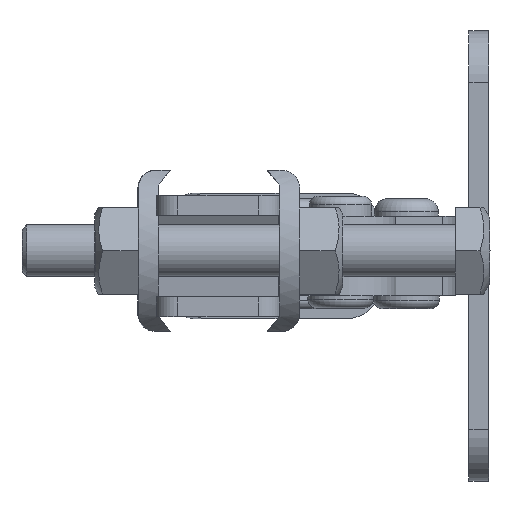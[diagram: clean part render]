
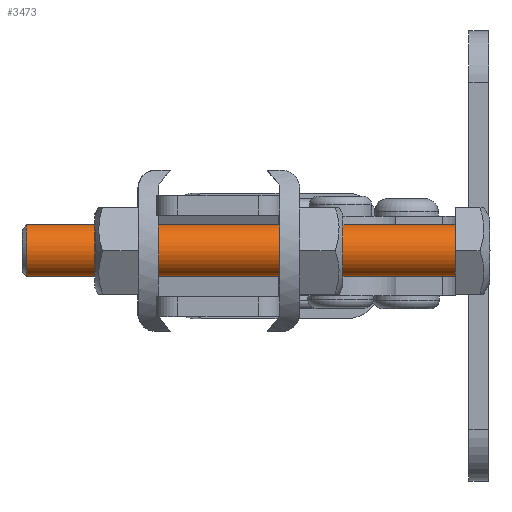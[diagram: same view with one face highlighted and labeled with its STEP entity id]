
A CAD part, left-side view. The second image highlights one B-rep face of the part: STEP entity #3473.
In plain terms, the highlighted cylindrical face has radius 3 mm (diameter 6 mm), a full revolution.
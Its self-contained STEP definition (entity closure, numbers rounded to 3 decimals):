
#495=FACE_OUTER_BOUND('',#751,.T.);
#751=EDGE_LOOP('',(#3113,#3114,#3115,#3116));
#992=LINE('',#6209,#1237);
#1237=VECTOR('',#5110,3.);
#1456=CIRCLE('',#4060,3.);
#1457=CIRCLE('',#4062,3.);
#1749=VERTEX_POINT('',#6204);
#1750=VERTEX_POINT('',#6208);
#2209=EDGE_CURVE('',#1749,#1749,#1456,.T.);
#2210=EDGE_CURVE('',#1749,#1750,#992,.T.);
#2211=EDGE_CURVE('',#1750,#1750,#1457,.T.);
#3113=ORIENTED_EDGE('',*,*,#2209,.F.);
#3114=ORIENTED_EDGE('',*,*,#2210,.T.);
#3115=ORIENTED_EDGE('',*,*,#2211,.F.);
#3116=ORIENTED_EDGE('',*,*,#2210,.F.);
#3287=CYLINDRICAL_SURFACE('',#4061,3.);
#3473=ADVANCED_FACE('',(#495),#3287,.T.);
#4060=AXIS2_PLACEMENT_3D('',#6206,#5106,#5107);
#4061=AXIS2_PLACEMENT_3D('',#6207,#5108,#5109);
#4062=AXIS2_PLACEMENT_3D('',#6210,#5111,#5112);
#5106=DIRECTION('center_axis',(0.,0.,1.));
#5107=DIRECTION('ref_axis',(-1.,0.,0.));
#5108=DIRECTION('center_axis',(0.,0.,1.));
#5109=DIRECTION('ref_axis',(-1.,0.,0.));
#5110=DIRECTION('',(0.,0.,-1.));
#5111=DIRECTION('center_axis',(0.,0.,-1.));
#5112=DIRECTION('ref_axis',(-1.,0.,0.));
#6204=CARTESIAN_POINT('',(3.,0.,53.5));
#6206=CARTESIAN_POINT('Origin',(0.,0.,53.5));
#6207=CARTESIAN_POINT('Origin',(0.,0.,4.));
#6208=CARTESIAN_POINT('',(3.,0.,4.));
#6209=CARTESIAN_POINT('',(3.,0.,4.));
#6210=CARTESIAN_POINT('Origin',(0.,0.,4.));
